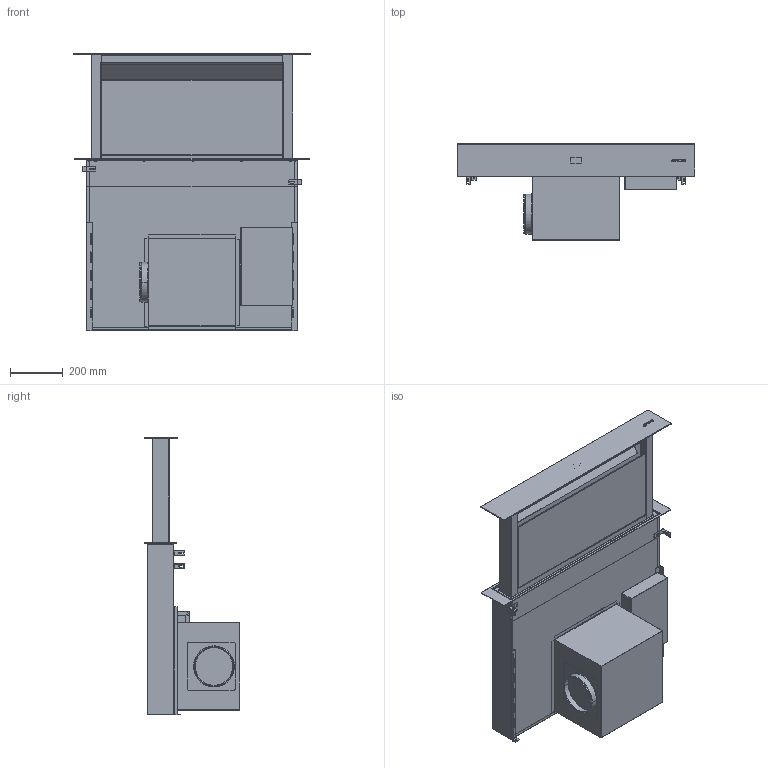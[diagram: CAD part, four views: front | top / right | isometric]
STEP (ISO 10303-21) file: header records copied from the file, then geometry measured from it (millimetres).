
FILE_DESCRIPTION(/* description */ (''),/* implementation_level */ '2;1');
FILE_NAME(/* name */ 'KDD90CNE.stp',/* time_stamp */ '2021-03-05T17:12:33+01:00',/* author */ (''),/* organization */ (''),/* preprocessor_version */ 'ST-DEVELOPER v16',/* originating_system */ 'SIEMENS PLM Software NX 11.0',/* authorisation */ '');
FILE_SCHEMA (('AUTOMOTIVE_DESIGN { 1 0 10303 214 3 1 1 1 }'));
Length unit declared in the file: millimetre
Products named in the file (1): mart42849DEEi5wy
Bounding box: 900 x 362.95 x 1052.5 mm (x, y, z)
Volume: 3698981.2 mm3; surface area: 6197276.9 mm2
Topology: 31 solids, 31 shells, 1051 faces, 2507 edges, 1519 vertices
Faces by surface type: plane 681, cylinder 299, torus 24, cone 22, bspline 14, extrusion 11
Full cylindrical faces by diameter (mm): 4.608 x6
Entity records: 31432 total; most frequent: CARTESIAN_POINT 6494, DIRECTION 5215, ORIENTED_EDGE 5000, EDGE_CURVE 2500, VECTOR 1739, AXIS2_PLACEMENT_3D 1738, LINE 1728, VERTEX_POINT 1519
